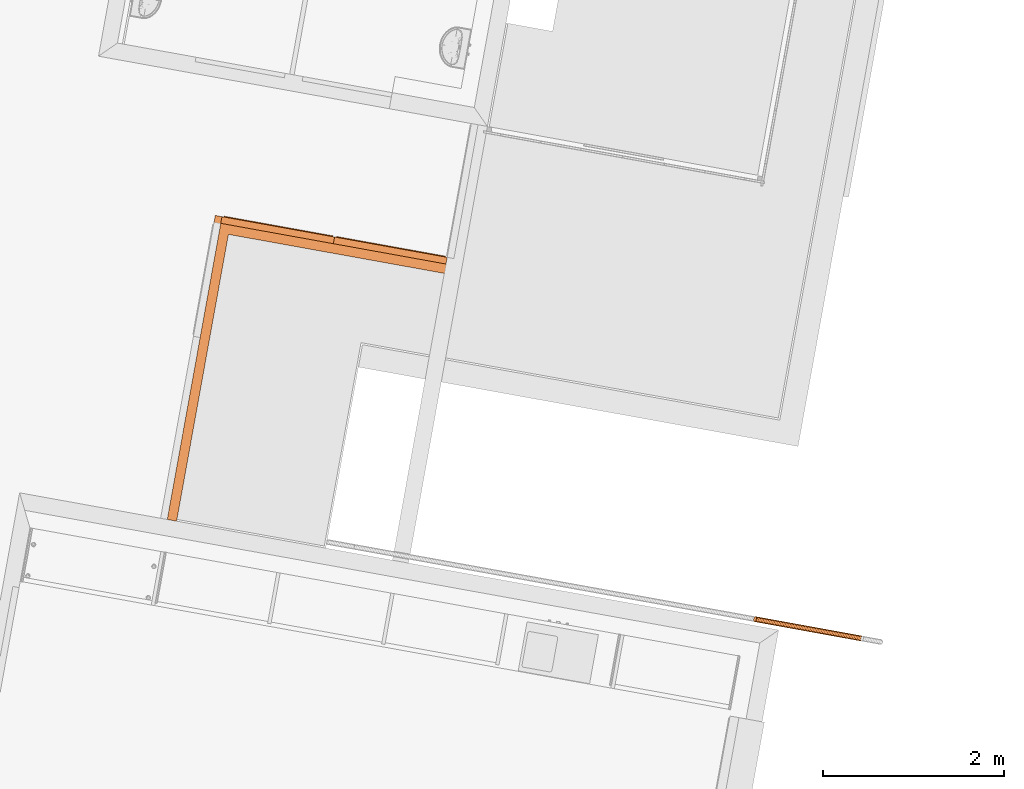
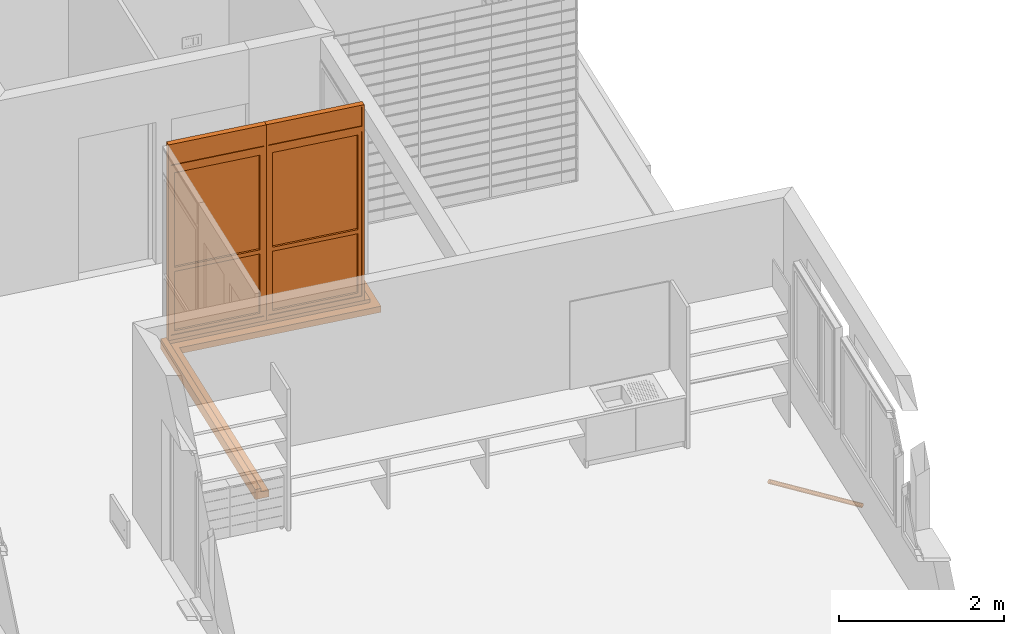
# One storey, part 41 of 52: 4 proxies, 1 element without a shape of its own.
"""IFC2X3 building model written with IfcOpenShell, lengths in metres."""

from ifc_helpers import new_model, entity, si_unit, converted_unit, derived_unit, money_unit, direction, frame, origin_with_axes, place, context, subcontext, project, spatial, open_shell, faceted_brep, surface_model, material, type_object, element, aggregate, save


model = new_model("IFC2X3")

# Units and contexts
model_context = context("Model", 3, precision=1e-05, world=origin_with_axes(), true_north=direction((0.0, 1.0)))
body_context = subcontext(model_context, "Body", "Model", "MODEL_VIEW")
ifc_project = project(units=[si_unit("LENGTHUNIT", "METRE"), si_unit("AREAUNIT", "SQUARE_METRE"), si_unit("VOLUMEUNIT", "CUBIC_METRE"), converted_unit("PLANEANGLEUNIT", "DEGREE", entity("IfcPlaneAngleMeasure", 0.0174532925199), si_unit("PLANEANGLEUNIT", "RADIAN"), dimensions=[0, 0, 0, 0, 0, 0, 0]), money_unit("CHF"), converted_unit("TIMEUNIT", "Year", entity("IfcTimeMeasure", 31556926.0), si_unit("TIMEUNIT", "SECOND"), dimensions=[0, 0, 1, 0, 0, 0, 0]), si_unit("MASSUNIT", "GRAM", prefix="KILO"), si_unit("THERMODYNAMICTEMPERATUREUNIT", "DEGREE_CELSIUS"), si_unit("LUMINOUSINTENSITYUNIT", "LUMEN"), si_unit("ENERGYUNIT", "JOULE", prefix="MEGA"), derived_unit("THERMALCONDUCTANCEUNIT", [(si_unit("POWERUNIT", "WATT"), 1), (si_unit("LENGTHUNIT", "METRE"), -1), (si_unit("THERMODYNAMICTEMPERATUREUNIT", "KELVIN"), -1)]), derived_unit("SPECIFICHEATCAPACITYUNIT", [(si_unit("ENERGYUNIT", "JOULE"), 1), (si_unit("MASSUNIT", "GRAM", prefix="KILO"), -1), (si_unit("THERMODYNAMICTEMPERATUREUNIT", "KELVIN"), -1)]), derived_unit("MASSDENSITYUNIT", [(si_unit("MASSUNIT", "GRAM", prefix="KILO"), 1), (si_unit("VOLUMEUNIT", "CUBIC_METRE"), -1)])], contexts=[model_context])

# Site, building, storey
site_placement = place(None, frame((0.0, 0.0, 0.0), z_axis=(0.0, 0.0, 1.0), x_axis=(-0.177771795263, -0.984071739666, 0.0)))
site = spatial("IfcSite", under=ifc_project, at=site_placement, Name="Site", CompositionType="ELEMENT")
building_placement = place(site_placement, origin_with_axes())
building = spatial("IfcBuilding", under=site, at=building_placement, Name="Bâtiment", CompositionType="ELEMENT")
storey_placement = place(building_placement, frame((0.0, 0.0, 3.2), z_axis=(0.0, 0.0, 1.0), x_axis=(1.0, 0.0, 0.0)))
storey = spatial("IfcBuildingStorey", under=building, at=storey_placement, Name="R+1", CompositionType="ELEMENT", Elevation=3.2)

# Proxies
ifc_material_1 = material(Name="_BA banché RAL9007")
building_element_proxy_type_1 = type_object("IfcBuildingElementProxyType", Name="_BA banché RAL9007 150", PredefinedType="NOTDEFINED")
proxy_1_placement = place(storey_placement, frame((141.294840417, -152.267150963, 0.0), z_axis=(0.0, 0.0, 1.0), x_axis=(1.0, 0.0, 0.0)))
element("IfcBuildingElementProxy", 1, at=proxy_1_placement, inside=storey, type_object=building_element_proxy_type_1, material=ifc_material_1, Name="Seuil-MR-terrasse", context=body_context, shape_type="Brep", body=[
    faceted_brep([(1.49999999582, -0.179999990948, -0.15), (1.50000012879, -2.78000014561, -0.15), (1.50000012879, -2.78000014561, 0.0), (1.49999999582, -0.179999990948, 0.0), (7.46330997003e-09, -0.180000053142, -0.15), (0.0, 0.0, -0.15), (1.67999998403, 6.96570598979e-08, -0.15), (1.68000011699, -2.5999995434, -0.15), (4.89500074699, -2.59999172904, -0.15), (4.8950007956, -2.77999189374, -0.15), (4.8950007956, -2.77999189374, 0.0), (7.46330997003e-09, -0.180000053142, 0.0), (4.89500093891, -2.70499971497, 0.0), (1.57500011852, -2.70499971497, 0.0), (1.57500011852, -0.10499993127, 0.0), (1.45964579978e-07, -0.104999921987, 0.0), (1.45964579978e-07, -0.104999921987, -0.05), (1.24680469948e-07, 7.80125599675e-08, -0.06), (1.68000011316, 3.01139002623e-09, -0.06), (1.68000024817, -2.59999971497, -0.06), (4.89500093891, -2.59999971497, -0.06), (4.89500093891, -2.70499971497, -0.05), (1.57500011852, -2.70499971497, -0.05), (1.57500011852, -0.10499993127, -0.05)], [[[0, 1, 2, 3]], [[0, 4, 5, 6, 7, 8, 9, 1]], [[1, 9, 10, 2]], [[11, 3, 2, 10, 12, 13, 14, 15]], [[4, 0, 3, 11]], [[4, 11, 15, 16, 17, 5]], [[5, 17, 18, 6]], [[7, 6, 18, 19]], [[7, 19, 20, 8]], [[10, 9, 8, 20, 21, 12]], [[13, 12, 21, 22]], [[13, 22, 23, 14]], [[16, 15, 14, 23]], [[17, 16, 23, 18]], [[22, 19, 18, 23]], [[22, 21, 20, 19]]]),
])
ifc_material_2 = material(Name="Matériau de construction IFC")
building_element_proxy_type_2 = type_object("IfcBuildingElementProxyType", Name="Fenêtre verticale à châssis multiples 21", PredefinedType="NOTDEFINED")
proxy_2_placement = place(storey_placement, frame((142.869840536, -154.972150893, 0.0), z_axis=(0.0, 0.0, 1.0), x_axis=(-5.1141138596e-08, 1.0, 0.0)))
element("IfcBuildingElementProxy", 2, at=proxy_2_placement, inside=storey, type_object=building_element_proxy_type_2, material=ifc_material_2, Name="Baie terrasse_ATTENTE", context=body_context, shape_type="SurfaceModel", body=[
    faceted_brep([(1.24250000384, 0.0749999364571, 0.07), (1.24250000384, 0.0749999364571, 2.5225), (1.23250000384, 0.0749999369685, 2.5225), (1.23250000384, 0.0749999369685, 2.5775), (1.24250000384, 0.0749999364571, 2.5775), (1.24250000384, 0.0749999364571, 2.87), (1.26250000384, 0.0749999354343, 2.87), (1.26250000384, 0.0749999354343, 0.07), (1.24250000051, 0.00999993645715, 0.07), (1.24250000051, 0.00999993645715, 2.5225), (1.23250000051, 0.00999993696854, 2.5225), (1.23250000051, 0.00999993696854, 2.5125), (1.2325, -6.303145e-08, 2.5125), (1.2325, -6.303145e-08, 2.5875), (1.23250000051, 0.00999993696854, 2.5875), (1.23250000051, 0.00999993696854, 2.5775), (1.24250000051, 0.00999993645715, 2.5775), (1.24250000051, 0.00999993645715, 2.87), (1.23250000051, 0.00999993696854, 2.87), (1.2325, -6.303145e-08, 2.87), (1.2625, -6.456568e-08, 2.87), (1.2625, -6.456568e-08, 0.07), (1.2325, -6.303145e-08, 0.07), (1.23250000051, 0.00999993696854, 0.07)], [[[0, 1, 2, 3, 4, 5, 6, 7]], [[1, 0, 8, 9]], [[10, 2, 1, 9]], [[10, 11, 12, 13, 14, 15, 3, 2]], [[4, 3, 15, 16]], [[17, 5, 4, 16]], [[5, 17, 18, 19, 20, 6]], [[6, 20, 21, 7]], [[8, 0, 7, 21, 22, 23]], [[11, 10, 9, 8, 23]], [[11, 23, 22, 12]], [[20, 19, 13, 12, 22, 21]], [[18, 14, 13, 19]], [[14, 18, 17, 16, 15]]]),
    faceted_brep([(0.0200000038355, 0.0749999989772, 2.5225), (0.0200000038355, 0.0749999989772, 0.07), (3.83557e-09, 0.075, 0.07), (3.83557e-09, 0.075, 2.87), (0.0200000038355, 0.0749999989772, 2.87), (0.0200000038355, 0.0749999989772, 2.5775), (0.0300000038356, 0.0749999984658, 2.5775), (0.0300000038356, 0.0749999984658, 2.5225), (0.0200000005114, 0.00999999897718, 2.5225), (0.0200000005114, 0.00999999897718, 0.07), (0.0300000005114, 0.00999999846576, 0.07), (0.03, -1.53423e-09, 0.07), (0.0, 0.0, 0.07), (0.0, 0.0, 2.87), (0.0300000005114, 0.00999999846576, 2.87), (0.0200000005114, 0.00999999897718, 2.87), (0.03, -1.53423e-09, 2.87), (0.0200000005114, 0.00999999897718, 2.5775), (0.0300000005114, 0.00999999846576, 2.5775), (0.0300000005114, 0.00999999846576, 2.5225), (0.0300000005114, 0.00999999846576, 2.5875), (0.03, -1.53423e-09, 2.5875), (0.03, -1.53423e-09, 2.5125), (0.0300000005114, 0.00999999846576, 2.5125)], [[[0, 1, 2, 3, 4, 5, 6, 7]], [[1, 0, 8, 9]], [[9, 10, 11, 12, 2, 1]], [[2, 12, 13, 3]], [[14, 15, 4, 3, 13, 16]], [[5, 4, 15, 17]], [[6, 5, 17, 18]], [[19, 7, 6, 18, 20, 21, 22, 23]], [[0, 7, 19, 8]], [[10, 9, 8, 19, 23]], [[10, 23, 22, 11]], [[22, 21, 16, 13, 12, 11]], [[15, 14, 20, 18, 17]], [[20, 14, 16, 21]]]),
    faceted_brep([(1.24250000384, 0.0749999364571, 2.87), (1.24250000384, 0.0749999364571, 2.88), (0.0200000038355, 0.0749999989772, 2.88), (0.0200000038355, 0.0749999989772, 2.87), (3.83557e-09, 0.075, 2.87), (3.83557e-09, 0.075, 2.9), (1.26250000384, 0.0749999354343, 2.9), (1.26250000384, 0.0749999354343, 2.87), (1.24250000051, 0.00999993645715, 2.87), (1.24250000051, 0.00999993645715, 2.88), (0.0200000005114, 0.00999999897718, 2.88), (0.0200000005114, 0.00999999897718, 2.87), (0.0300000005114, 0.00999999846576, 2.87), (0.03, -1.53423e-09, 2.87), (0.0, 0.0, 2.87), (0.0, 0.0, 2.9), (1.2625, -6.456568e-08, 2.9), (1.2625, -6.456568e-08, 2.87), (1.2325, -6.303145e-08, 2.87), (1.23250000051, 0.00999993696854, 2.87)], [[[0, 1, 2, 3, 4, 5, 6, 7]], [[1, 0, 8, 9]], [[2, 1, 9, 10]], [[3, 2, 10, 11]], [[11, 12, 13, 14, 4, 3]], [[4, 14, 15, 5]], [[5, 15, 16, 6]], [[6, 16, 17, 7]], [[8, 0, 7, 17, 18, 19]], [[12, 11, 10, 9, 8, 19]], [[12, 19, 18, 13]], [[14, 13, 18, 17, 16, 15]]]),
    faceted_brep([(0.0300000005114, 0.00999999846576, 0.07), (0.0200000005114, 0.00999999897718, 0.07), (0.0200000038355, 0.0749999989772, 0.07), (3.83557e-09, 0.075, 0.07), (0.0, 0.0, 0.07), (0.03, -1.53423e-09, 0.07), (1.23250000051, 0.00999993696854, 0.07), (1.24250000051, 0.00999993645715, 0.07), (1.24250000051, 0.00999993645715, 0.06), (0.0200000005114, 0.00999999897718, 0.06), (0.0200000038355, 0.0749999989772, 0.06), (1.24250000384, 0.0749999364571, 0.06), (1.24250000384, 0.0749999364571, 0.07), (1.26250000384, 0.0749999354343, 0.07), (1.26250000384, 0.0749999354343, 0.0), (3.83557e-09, 0.075, 0.0), (0.0, 0.0, 0.0), (1.2625, -6.456568e-08, 0.07), (1.2325, -6.303145e-08, 0.07), (1.2625, -6.456568e-08, 0.0)], [[[0, 1, 2, 3, 4, 5]], [[1, 0, 6, 7, 8, 9]], [[10, 2, 1, 9]], [[11, 12, 13, 14, 15, 3, 2, 10]], [[15, 16, 4, 3]], [[17, 18, 5, 4, 16, 19]], [[6, 0, 5, 18]], [[7, 6, 18, 17, 13, 12]], [[7, 12, 11, 8]], [[11, 10, 9, 8]], [[13, 17, 19, 14]], [[14, 19, 16, 15]]]),
    faceted_brep([(1.23250000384, 0.0749999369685, 2.5225), (0.0300000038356, 0.0749999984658, 2.5225), (0.0300000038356, 0.0749999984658, 2.5775), (1.23250000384, 0.0749999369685, 2.5775), (0.0300000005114, 0.00999999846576, 2.5225), (1.23250000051, 0.00999993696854, 2.5225), (0.0300000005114, 0.00999999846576, 2.5125), (0.03, -1.53423e-09, 2.5125), (0.03, -1.53423e-09, 2.5875), (0.0300000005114, 0.00999999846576, 2.5875), (0.0300000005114, 0.00999999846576, 2.5775), (1.23250000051, 0.00999993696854, 2.5775), (1.23250000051, 0.00999993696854, 2.5875), (1.2325, -6.303145e-08, 2.5875), (1.2325, -6.303145e-08, 2.5125), (1.23250000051, 0.00999993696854, 2.5125)], [[[0, 1, 2, 3]], [[4, 1, 0, 5]], [[4, 6, 7, 8, 9, 10, 2, 1]], [[3, 2, 10, 11]], [[5, 0, 3, 11, 12, 13, 14, 15]], [[6, 4, 5, 15]], [[6, 15, 14, 7]], [[13, 8, 7, 14]], [[12, 9, 8, 13]], [[10, 9, 12, 11]]]),
    faceted_brep([(1.18250000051, 0.00999993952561, 1.0), (1.18250000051, 0.00999993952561, 1.06), (1.18250000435, 0.0849999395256, 1.06), (1.18250000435, 0.0849999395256, 1.0), (1.18250000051, 0.00999993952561, 0.12), (1.24250000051, 0.00999993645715, 0.12), (1.24250000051, 0.00999993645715, 2.4625), (1.18250000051, 0.00999993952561, 2.4625), (1.18250000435, 0.0849999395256, 2.4625), (1.24250000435, 0.0849999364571, 2.4625), (1.24250000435, 0.0849999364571, 0.12), (1.18250000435, 0.0849999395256, 0.12)], [[[0, 1, 2, 3]], [[0, 4, 5, 6, 7, 1]], [[1, 7, 8, 2]], [[3, 2, 8, 9, 10, 11]], [[4, 0, 3, 11]], [[5, 4, 11, 10]], [[6, 5, 10, 9]], [[7, 6, 9, 8]]]),
    faceted_brep([(0.0800000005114, 0.00999999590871, 0.12), (0.0200000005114, 0.00999999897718, 0.12), (0.020000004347, 0.0849999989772, 0.12), (0.080000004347, 0.0849999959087, 0.12), (0.0800000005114, 0.00999999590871, 1.0), (0.0800000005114, 0.00999999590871, 1.06), (0.0800000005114, 0.00999999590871, 2.4625), (0.0200000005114, 0.00999999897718, 2.4625), (0.020000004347, 0.0849999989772, 2.4625), (0.080000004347, 0.0849999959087, 2.4625), (0.080000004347, 0.0849999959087, 1.06), (0.080000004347, 0.0849999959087, 1.0)], [[[0, 1, 2, 3]], [[0, 4, 5, 6, 7, 1]], [[1, 7, 8, 2]], [[3, 2, 8, 9, 10, 11]], [[4, 0, 3, 11]], [[5, 4, 11, 10]], [[6, 5, 10, 9]], [[7, 6, 9, 8]]]),
    faceted_brep([(0.0200000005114, 0.00999999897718, 0.06), (0.0200000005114, 0.00999999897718, 0.12), (0.020000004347, 0.0849999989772, 0.12), (0.020000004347, 0.0849999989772, 0.06), (1.24250000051, 0.00999993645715, 0.06), (1.24250000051, 0.00999993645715, 0.12), (1.18250000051, 0.00999993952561, 0.12), (0.0800000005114, 0.00999999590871, 0.12), (0.080000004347, 0.0849999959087, 0.12), (1.18250000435, 0.0849999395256, 0.12), (1.24250000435, 0.0849999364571, 0.12), (1.24250000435, 0.0849999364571, 0.06)], [[[0, 1, 2, 3]], [[0, 4, 5, 6, 7, 1]], [[1, 7, 8, 2]], [[3, 2, 8, 9, 10, 11]], [[4, 0, 3, 11]], [[5, 4, 11, 10]], [[6, 5, 10, 9]], [[7, 6, 9, 8]]]),
    faceted_brep([(1.24250000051, 0.00999993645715, 2.5225), (1.24250000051, 0.00999993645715, 2.4625), (1.24250000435, 0.0849999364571, 2.4625), (1.24250000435, 0.0849999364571, 2.5225), (0.0200000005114, 0.00999999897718, 2.5225), (0.0200000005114, 0.00999999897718, 2.4625), (0.0800000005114, 0.00999999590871, 2.4625), (1.18250000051, 0.00999993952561, 2.4625), (1.18250000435, 0.0849999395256, 2.4625), (0.080000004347, 0.0849999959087, 2.4625), (0.020000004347, 0.0849999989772, 2.4625), (0.020000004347, 0.0849999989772, 2.5225)], [[[0, 1, 2, 3]], [[0, 4, 5, 6, 7, 1]], [[1, 7, 8, 2]], [[3, 2, 8, 9, 10, 11]], [[4, 0, 3, 11]], [[5, 4, 11, 10]], [[6, 5, 10, 9]], [[7, 6, 9, 8]]]),
    faceted_brep([(0.0800000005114, 0.00999999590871, 1.0), (0.0800000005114, 0.00999999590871, 1.06), (0.080000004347, 0.0849999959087, 1.06), (0.080000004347, 0.0849999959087, 1.0), (1.18250000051, 0.00999993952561, 1.0), (1.18250000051, 0.00999993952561, 1.06), (1.18250000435, 0.0849999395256, 1.06), (1.18250000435, 0.0849999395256, 1.0)], [[[0, 1, 2, 3]], [[0, 4, 5, 1]], [[1, 5, 6, 2]], [[3, 2, 6, 7]], [[4, 0, 3, 7]], [[5, 4, 7, 6]]]),
    surface_model("IfcShellBasedSurfaceModel", [(1.18250000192, 0.0374999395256, 1.06), (1.18250000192, 0.0374999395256, 2.4625), (0.0800000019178, 0.0374999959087, 2.4625), (0.0800000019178, 0.0374999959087, 1.06)], [open_shell([[[0, 1, 2, 3]]])]),
    surface_model("IfcShellBasedSurfaceModel", [(1.18250000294, 0.0574999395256, 1.06), (0.0800000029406, 0.0574999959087, 1.06), (0.0800000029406, 0.0574999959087, 2.4625), (1.18250000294, 0.0574999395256, 2.4625)], [open_shell([[[0, 1, 2, 3]]])]),
    surface_model("IfcShellBasedSurfaceModel", [(1.18250000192, 0.0374999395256, 0.12), (1.18250000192, 0.0374999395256, 1.0), (0.0800000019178, 0.0374999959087, 1.0), (0.0800000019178, 0.0374999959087, 0.12)], [open_shell([[[0, 1, 2, 3]]])]),
    surface_model("IfcShellBasedSurfaceModel", [(1.18250000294, 0.0574999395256, 0.12), (0.0800000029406, 0.0574999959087, 0.12), (0.0800000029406, 0.0574999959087, 1.0), (1.18250000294, 0.0574999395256, 1.0)], [open_shell([[[0, 1, 2, 3]]])]),
    faceted_brep([(1.24250000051, 0.00999993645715, 2.5775), (0.0200000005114, 0.00999999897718, 2.5775), (0.020000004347, 0.0849999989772, 2.5775), (1.24250000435, 0.0849999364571, 2.5775), (1.24250000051, 0.00999993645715, 2.88), (0.0200000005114, 0.00999999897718, 2.88), (0.020000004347, 0.0849999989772, 2.88), (1.24250000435, 0.0849999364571, 2.88)], [[[0, 1, 2, 3]], [[0, 4, 5, 1]], [[1, 5, 6, 2]], [[3, 2, 6, 7]], [[4, 0, 3, 7]], [[5, 4, 7, 6]]]),
])
proxy_3_placement = place(storey_placement, frame((142.869840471, -153.709650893, 0.0), z_axis=(0.0, 0.0, 1.0), x_axis=(-5.1141138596e-08, 1.0, 0.0)))
element("IfcBuildingElementProxy", 3, at=proxy_3_placement, inside=storey, type_object=building_element_proxy_type_2, material=ifc_material_2, Name="Baie terrasse_ATTENTE", context=body_context, shape_type="SurfaceModel", body=[
    faceted_brep([(1.24250000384, 0.0749998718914, 0.07), (1.24250000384, 0.0749998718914, 2.5225), (1.23250000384, 0.0749998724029, 2.5225), (1.23250000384, 0.0749998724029, 2.5775), (1.24250000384, 0.0749998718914, 2.5775), (1.24250000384, 0.0749998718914, 2.87), (1.26250000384, 0.0749998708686, 2.87), (1.26250000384, 0.0749998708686, 0.07), (1.24250000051, 0.00999987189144, 0.07), (1.24250000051, 0.00999987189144, 2.5225), (1.23250000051, 0.00999987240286, 2.5225), (1.23250000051, 0.00999987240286, 2.5125), (1.2325, -1.2759713e-07, 2.5125), (1.2325, -1.2759713e-07, 2.5875), (1.23250000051, 0.00999987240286, 2.5875), (1.23250000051, 0.00999987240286, 2.5775), (1.24250000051, 0.00999987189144, 2.5775), (1.24250000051, 0.00999987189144, 2.87), (1.23250000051, 0.00999987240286, 2.87), (1.2325, -1.2759713e-07, 2.87), (1.2625, -1.2913137e-07, 2.87), (1.2625, -1.2913137e-07, 0.07), (1.2325, -1.2759713e-07, 0.07), (1.23250000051, 0.00999987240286, 0.07)], [[[0, 1, 2, 3, 4, 5, 6, 7]], [[1, 0, 8, 9]], [[10, 2, 1, 9]], [[10, 11, 12, 13, 14, 15, 3, 2]], [[4, 3, 15, 16]], [[17, 5, 4, 16]], [[5, 17, 18, 19, 20, 6]], [[6, 20, 21, 7]], [[8, 0, 7, 21, 22, 23]], [[11, 10, 9, 8, 23]], [[11, 23, 22, 12]], [[20, 19, 13, 12, 22, 21]], [[18, 14, 13, 19]], [[14, 18, 17, 16, 15]]]),
    faceted_brep([(0.0200000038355, 0.0749999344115, 2.5225), (0.0200000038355, 0.0749999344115, 0.07), (3.83557e-09, 0.0749999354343, 0.07), (3.83557e-09, 0.0749999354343, 2.87), (0.0200000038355, 0.0749999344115, 2.87), (0.0200000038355, 0.0749999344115, 2.5775), (0.0300000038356, 0.0749999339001, 2.5775), (0.0300000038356, 0.0749999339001, 2.5225), (0.0200000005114, 0.0099999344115, 2.5225), (0.0200000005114, 0.0099999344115, 0.07), (0.0300000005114, 0.00999993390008, 0.07), (0.03, -6.609991e-08, 0.07), (0.0, -6.456568e-08, 0.07), (0.0, -6.456568e-08, 2.87), (0.0300000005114, 0.00999993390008, 2.87), (0.0200000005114, 0.0099999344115, 2.87), (0.03, -6.609991e-08, 2.87), (0.0200000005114, 0.0099999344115, 2.5775), (0.0300000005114, 0.00999993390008, 2.5775), (0.0300000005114, 0.00999993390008, 2.5225), (0.0300000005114, 0.00999993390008, 2.5875), (0.03, -6.609991e-08, 2.5875), (0.03, -6.609991e-08, 2.5125), (0.0300000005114, 0.00999993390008, 2.5125)], [[[0, 1, 2, 3, 4, 5, 6, 7]], [[1, 0, 8, 9]], [[9, 10, 11, 12, 2, 1]], [[2, 12, 13, 3]], [[14, 15, 4, 3, 13, 16]], [[5, 4, 15, 17]], [[6, 5, 17, 18]], [[19, 7, 6, 18, 20, 21, 22, 23]], [[0, 7, 19, 8]], [[10, 9, 8, 19, 23]], [[10, 23, 22, 11]], [[22, 21, 16, 13, 12, 11]], [[15, 14, 20, 18, 17]], [[20, 14, 16, 21]]]),
    faceted_brep([(1.24250000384, 0.0749998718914, 2.87), (1.24250000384, 0.0749998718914, 2.88), (0.0200000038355, 0.0749999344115, 2.88), (0.0200000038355, 0.0749999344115, 2.87), (3.83557e-09, 0.0749999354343, 2.87), (3.83557e-09, 0.0749999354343, 2.9), (1.26250000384, 0.0749998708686, 2.9), (1.26250000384, 0.0749998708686, 2.87), (1.24250000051, 0.00999987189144, 2.87), (1.24250000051, 0.00999987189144, 2.88), (0.0200000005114, 0.0099999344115, 2.88), (0.0200000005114, 0.0099999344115, 2.87), (0.0300000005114, 0.00999993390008, 2.87), (0.03, -6.609991e-08, 2.87), (0.0, -6.456568e-08, 2.87), (0.0, -6.456568e-08, 2.9), (1.2625, -1.2913137e-07, 2.9), (1.2625, -1.2913137e-07, 2.87), (1.2325, -1.2759713e-07, 2.87), (1.23250000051, 0.00999987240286, 2.87)], [[[0, 1, 2, 3, 4, 5, 6, 7]], [[1, 0, 8, 9]], [[2, 1, 9, 10]], [[3, 2, 10, 11]], [[11, 12, 13, 14, 4, 3]], [[4, 14, 15, 5]], [[5, 15, 16, 6]], [[6, 16, 17, 7]], [[8, 0, 7, 17, 18, 19]], [[12, 11, 10, 9, 8, 19]], [[12, 19, 18, 13]], [[14, 13, 18, 17, 16, 15]]]),
    faceted_brep([(0.0300000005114, 0.00999993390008, 0.07), (0.0200000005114, 0.0099999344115, 0.07), (0.0200000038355, 0.0749999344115, 0.07), (3.83557e-09, 0.0749999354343, 0.07), (0.0, -6.456568e-08, 0.07), (0.03, -6.609991e-08, 0.07), (1.23250000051, 0.00999987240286, 0.07), (1.24250000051, 0.00999987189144, 0.07), (1.24250000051, 0.00999987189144, 0.06), (0.0200000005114, 0.0099999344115, 0.06), (0.0200000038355, 0.0749999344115, 0.06), (1.24250000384, 0.0749998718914, 0.06), (1.24250000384, 0.0749998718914, 0.07), (1.26250000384, 0.0749998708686, 0.07), (1.26250000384, 0.0749998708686, 0.0), (3.83557e-09, 0.0749999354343, 0.0), (0.0, -6.456568e-08, 0.0), (1.2625, -1.2913137e-07, 0.07), (1.2325, -1.2759713e-07, 0.07), (1.2625, -1.2913137e-07, 0.0)], [[[0, 1, 2, 3, 4, 5]], [[1, 0, 6, 7, 8, 9]], [[10, 2, 1, 9]], [[11, 12, 13, 14, 15, 3, 2, 10]], [[15, 16, 4, 3]], [[17, 18, 5, 4, 16, 19]], [[6, 0, 5, 18]], [[7, 6, 18, 17, 13, 12]], [[7, 12, 11, 8]], [[11, 10, 9, 8]], [[13, 17, 19, 14]], [[14, 19, 16, 15]]]),
    faceted_brep([(1.23250000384, 0.0749998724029, 2.5225), (0.0300000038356, 0.0749999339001, 2.5225), (0.0300000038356, 0.0749999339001, 2.5775), (1.23250000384, 0.0749998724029, 2.5775), (0.0300000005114, 0.00999993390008, 2.5225), (1.23250000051, 0.00999987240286, 2.5225), (0.0300000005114, 0.00999993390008, 2.5125), (0.03, -6.609991e-08, 2.5125), (0.03, -6.609991e-08, 2.5875), (0.0300000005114, 0.00999993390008, 2.5875), (0.0300000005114, 0.00999993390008, 2.5775), (1.23250000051, 0.00999987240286, 2.5775), (1.23250000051, 0.00999987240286, 2.5875), (1.2325, -1.2759713e-07, 2.5875), (1.2325, -1.2759713e-07, 2.5125), (1.23250000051, 0.00999987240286, 2.5125)], [[[0, 1, 2, 3]], [[4, 1, 0, 5]], [[4, 6, 7, 8, 9, 10, 2, 1]], [[3, 2, 10, 11]], [[5, 0, 3, 11, 12, 13, 14, 15]], [[6, 4, 5, 15]], [[6, 15, 14, 7]], [[13, 8, 7, 14]], [[12, 9, 8, 13]], [[10, 9, 12, 11]]]),
    faceted_brep([(1.18250000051, 0.00999987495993, 1.0), (1.18250000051, 0.00999987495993, 1.06), (1.18250000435, 0.0849998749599, 1.06), (1.18250000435, 0.0849998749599, 1.0), (1.18250000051, 0.00999987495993, 0.12), (1.24250000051, 0.00999987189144, 0.12), (1.24250000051, 0.00999987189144, 2.4625), (1.18250000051, 0.00999987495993, 2.4625), (1.18250000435, 0.0849998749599, 2.4625), (1.24250000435, 0.0849998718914, 2.4625), (1.24250000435, 0.0849998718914, 0.12), (1.18250000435, 0.0849998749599, 0.12)], [[[0, 1, 2, 3]], [[0, 4, 5, 6, 7, 1]], [[1, 7, 8, 2]], [[3, 2, 8, 9, 10, 11]], [[4, 0, 3, 11]], [[5, 4, 11, 10]], [[6, 5, 10, 9]], [[7, 6, 9, 8]]]),
    faceted_brep([(0.0800000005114, 0.00999993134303, 0.12), (0.0200000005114, 0.0099999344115, 0.12), (0.020000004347, 0.0849999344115, 0.12), (0.080000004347, 0.084999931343, 0.12), (0.0800000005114, 0.00999993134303, 1.0), (0.0800000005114, 0.00999993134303, 1.06), (0.0800000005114, 0.00999993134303, 2.4625), (0.0200000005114, 0.0099999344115, 2.4625), (0.020000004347, 0.0849999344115, 2.4625), (0.080000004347, 0.084999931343, 2.4625), (0.080000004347, 0.084999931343, 1.06), (0.080000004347, 0.084999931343, 1.0)], [[[0, 1, 2, 3]], [[0, 4, 5, 6, 7, 1]], [[1, 7, 8, 2]], [[3, 2, 8, 9, 10, 11]], [[4, 0, 3, 11]], [[5, 4, 11, 10]], [[6, 5, 10, 9]], [[7, 6, 9, 8]]]),
    faceted_brep([(0.0200000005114, 0.0099999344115, 0.06), (0.0200000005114, 0.0099999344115, 0.12), (0.020000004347, 0.0849999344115, 0.12), (0.020000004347, 0.0849999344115, 0.06), (1.24250000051, 0.00999987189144, 0.06), (1.24250000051, 0.00999987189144, 0.12), (1.18250000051, 0.00999987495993, 0.12), (0.0800000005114, 0.00999993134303, 0.12), (0.080000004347, 0.084999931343, 0.12), (1.18250000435, 0.0849998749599, 0.12), (1.24250000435, 0.0849998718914, 0.12), (1.24250000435, 0.0849998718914, 0.06)], [[[0, 1, 2, 3]], [[0, 4, 5, 6, 7, 1]], [[1, 7, 8, 2]], [[3, 2, 8, 9, 10, 11]], [[4, 0, 3, 11]], [[5, 4, 11, 10]], [[6, 5, 10, 9]], [[7, 6, 9, 8]]]),
    faceted_brep([(1.24250000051, 0.00999987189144, 2.5225), (1.24250000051, 0.00999987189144, 2.4625), (1.24250000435, 0.0849998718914, 2.4625), (1.24250000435, 0.0849998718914, 2.5225), (0.0200000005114, 0.0099999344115, 2.5225), (0.0200000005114, 0.0099999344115, 2.4625), (0.0800000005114, 0.00999993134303, 2.4625), (1.18250000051, 0.00999987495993, 2.4625), (1.18250000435, 0.0849998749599, 2.4625), (0.080000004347, 0.084999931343, 2.4625), (0.020000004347, 0.0849999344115, 2.4625), (0.020000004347, 0.0849999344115, 2.5225)], [[[0, 1, 2, 3]], [[0, 4, 5, 6, 7, 1]], [[1, 7, 8, 2]], [[3, 2, 8, 9, 10, 11]], [[4, 0, 3, 11]], [[5, 4, 11, 10]], [[6, 5, 10, 9]], [[7, 6, 9, 8]]]),
    faceted_brep([(0.0800000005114, 0.00999993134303, 1.0), (0.0800000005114, 0.00999993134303, 1.06), (0.080000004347, 0.084999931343, 1.06), (0.080000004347, 0.084999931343, 1.0), (1.18250000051, 0.00999987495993, 1.0), (1.18250000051, 0.00999987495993, 1.06), (1.18250000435, 0.0849998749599, 1.06), (1.18250000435, 0.0849998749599, 1.0)], [[[0, 1, 2, 3]], [[0, 4, 5, 1]], [[1, 5, 6, 2]], [[3, 2, 6, 7]], [[4, 0, 3, 7]], [[5, 4, 7, 6]]]),
    surface_model("IfcShellBasedSurfaceModel", [(1.18250000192, 0.0374998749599, 1.06), (1.18250000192, 0.0374998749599, 2.4625), (0.0800000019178, 0.037499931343, 2.4625), (0.0800000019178, 0.037499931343, 1.06)], [open_shell([[[0, 1, 2, 3]]])]),
    surface_model("IfcShellBasedSurfaceModel", [(1.18250000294, 0.0574998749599, 1.06), (0.0800000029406, 0.057499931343, 1.06), (0.0800000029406, 0.057499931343, 2.4625), (1.18250000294, 0.0574998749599, 2.4625)], [open_shell([[[0, 1, 2, 3]]])]),
    surface_model("IfcShellBasedSurfaceModel", [(1.18250000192, 0.0374998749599, 0.12), (1.18250000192, 0.0374998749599, 1.0), (0.0800000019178, 0.037499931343, 1.0), (0.0800000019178, 0.037499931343, 0.12)], [open_shell([[[0, 1, 2, 3]]])]),
    surface_model("IfcShellBasedSurfaceModel", [(1.18250000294, 0.0574998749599, 0.12), (0.0800000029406, 0.057499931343, 0.12), (0.0800000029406, 0.057499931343, 1.0), (1.18250000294, 0.0574998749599, 1.0)], [open_shell([[[0, 1, 2, 3]]])]),
    faceted_brep([(1.24250000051, 0.00999987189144, 2.5775), (0.0200000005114, 0.0099999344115, 2.5775), (0.020000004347, 0.0849999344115, 2.5775), (1.24250000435, 0.0849998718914, 2.5775), (1.24250000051, 0.00999987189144, 2.88), (0.0200000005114, 0.0099999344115, 2.88), (0.020000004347, 0.0849999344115, 2.88), (1.24250000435, 0.0849998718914, 2.88)], [[[0, 1, 2, 3]], [[0, 4, 5, 1]], [[1, 5, 6, 2]], [[3, 2, 6, 7]], [[4, 0, 3, 7]], [[5, 4, 7, 6]]]),
])

building_element_proxy_type_3 = type_object("IfcBuildingElementProxyType", Name="Type de garde-corps", PredefinedType="NOTDEFINED")
proxy_4_placement = place(storey_placement, frame((0.0, 0.0, -3.2), z_axis=(0.0, 0.0, 1.0), x_axis=(1.0, 0.0, 0.0)))
proxy_4 = element("IfcBuildingElementProxy", 4, at=proxy_4_placement, inside=storey, type_object=building_element_proxy_type_3, Name="garde-corps esc")
ifc_material_3 = material(Name="Bois - Massif 01")
building_element_proxy_type_4 = type_object("IfcBuildingElementProxyType", Name="IfcBuildingElementProxy", PredefinedType="NOTDEFINED")
proxy_5_placement = place(proxy_4_placement, frame((146.119596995, -147.795346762, 1.01757359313), z_axis=(0.0, 0.0, 1.0), x_axis=(1.0, 0.0, 0.0)))
proxy_5 = element("IfcBuildingElementProxy", 5, at=proxy_5_placement, type_object=building_element_proxy_type_4, material=ifc_material_3, Name="MOBILIER-001", context=body_context, shape_type="Brep", body=[
    faceted_brep([(-0.0294999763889, 0.60004083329, 0.0424264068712), (-0.029046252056, 0.597588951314, 0.0378298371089), (-0.0300449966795, -0.602458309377, 0.677846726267), (-0.0290421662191, 0.602491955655, 0.0470229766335), (-0.0276867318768, 0.604867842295, 0.0514798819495), (-0.0254748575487, 0.607096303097, 0.0556617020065), (-0.0224737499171, 0.609109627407, 0.0594413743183), (-0.0187745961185, 0.610846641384, 0.0627040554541), (-0.0144897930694, 0.612254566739, 0.0653506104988), (-0.0097495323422, 0.613290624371, 0.0673006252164), (-0.00469784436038, 0.613923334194, 0.0684948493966), (0.00051177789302, 0.61413347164, 0.0688969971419), (0.00572104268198, 0.613914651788, 0.0684948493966), (0.0107716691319, 0.61327352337, 0.0673006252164), (0.0155101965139, 0.612229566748, 0.0653506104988), (0.0197926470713, 0.610814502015, 0.0627040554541), (0.0234889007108, 0.609071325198, 0.0594413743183), (0.0264866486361, 0.607053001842, 0.0556617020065), (0.0286948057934, 0.60482085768, 0.0514798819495), (0.0300462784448, 0.602442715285, 0.0470229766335), (0.0305000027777, 0.599990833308, 0.0424264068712), (0.0300421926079, 0.597539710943, 0.0378298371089), (0.0286867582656, 0.595163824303, 0.0333729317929), (0.0264748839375, 0.592935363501, 0.0291911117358), (0.0234737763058, 0.590922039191, 0.0254114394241), (0.0197746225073, 0.589185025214, 0.0221487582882), (0.0154898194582, 0.587777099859, 0.0195022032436), (0.010749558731, 0.586741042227, 0.017552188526), (0.00569787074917, 0.586108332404, 0.0163579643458), (0.00048824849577, 0.585898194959, 0.0159558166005), (-0.00472101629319, 0.58611701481, 0.0163579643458), (-0.00977164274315, 0.586758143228, 0.017552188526), (-0.0145101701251, 0.587802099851, 0.0195022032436), (-0.0187926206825, 0.589217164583, 0.0221487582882), (-0.0224888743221, 0.5909603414, 0.0254114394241), (-0.0254866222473, 0.592978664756, 0.0291911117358), (-0.0276947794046, 0.595210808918, 0.0333729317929), (-0.0286922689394, -0.604835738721, 0.673389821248), (-0.0305000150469, -0.600006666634, 0.682443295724), (-0.0300434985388, -0.597555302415, 0.68703986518), (-0.0286893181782, -0.595178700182, 0.691496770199), (-0.0264786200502, -0.592949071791, 0.695678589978), (-0.0234785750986, -0.590934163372, 0.699458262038), (-0.0197803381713, -0.589195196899, 0.702720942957), (-0.0154962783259, -0.587785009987, 0.705367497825), (-0.010756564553, -0.586746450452, 0.707317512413), (-0.00570521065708, -0.586111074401, 0.708511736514), (-0.00049569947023, -0.585898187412, 0.708913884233), (0.00471368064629, -0.58611425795, 0.708511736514), (0.00976464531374, -0.586752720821, 0.707317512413), (0.0145037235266, -0.587794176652, 0.705367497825), (0.0187869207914, -0.589206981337, 0.702720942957), (0.0224840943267, -0.590948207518, 0.699458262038), (0.0254829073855, -0.592964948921, 0.695678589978), (0.0276922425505, -0.595195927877, 0.691496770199), (0.0290449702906, -0.597573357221, 0.68703986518), (0.0294999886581, -0.600024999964, 0.682443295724), (0.0290434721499, -0.602476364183, 0.677846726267), (0.0276892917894, -0.604852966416, 0.673389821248), (0.0254785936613, -0.607082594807, 0.669208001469), (0.0224785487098, -0.609097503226, 0.665428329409), (0.0187803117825, -0.610836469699, 0.66216564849), (0.0144962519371, -0.612246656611, 0.659519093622), (0.00975653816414, -0.613285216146, 0.657569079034), (0.00470518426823, -0.613920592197, 0.656374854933), (-0.00050432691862, -0.614133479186, 0.655972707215), (-0.00571370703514, -0.613917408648, 0.656374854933), (-0.0107646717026, -0.613278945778, 0.657569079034), (-0.0155037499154, -0.612237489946, 0.659519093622), (-0.0197869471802, -0.610824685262, 0.66216564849), (-0.0234841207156, -0.60908345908, 0.665428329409), (-0.0264829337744, -0.607066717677, 0.669208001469)], [[[0, 1, 2]], [[0, 3, 4, 5, 6, 7, 8, 9, 10, 11, 12, 13, 14, 15, 16, 17, 18, 19, 20, 21, 22, 23, 24, 25, 26, 27, 28, 29, 30, 31, 32, 33, 34, 35, 36, 1]], [[1, 37, 2]], [[0, 2, 38]], [[3, 0, 38]], [[4, 3, 39]], [[5, 4, 40]], [[6, 5, 41]], [[7, 6, 42]], [[8, 7, 43]], [[9, 8, 44]], [[10, 9, 45]], [[11, 10, 46]], [[12, 11, 47]], [[13, 12, 48]], [[14, 13, 49]], [[15, 14, 50]], [[16, 15, 51]], [[17, 16, 52]], [[18, 17, 53]], [[19, 18, 54]], [[20, 19, 55]], [[21, 20, 56]], [[22, 21, 57]], [[23, 22, 58]], [[24, 23, 59]], [[25, 24, 60]], [[26, 25, 61]], [[27, 26, 62]], [[28, 27, 63]], [[29, 28, 64]], [[30, 29, 65]], [[31, 30, 66]], [[32, 31, 67]], [[33, 32, 68]], [[34, 33, 69]], [[35, 34, 70]], [[36, 35, 71]], [[1, 36, 37]], [[38, 2, 37, 71, 70, 69, 68, 67, 66, 65, 64, 63, 62, 61, 60, 59, 58, 57, 56, 55, 54, 53, 52, 51, 50, 49, 48, 47, 46, 45, 44, 43, 42, 41, 40, 39]], [[3, 38, 39]], [[4, 39, 40]], [[5, 40, 41]], [[6, 41, 42]], [[7, 42, 43]], [[8, 43, 44]], [[9, 44, 45]], [[10, 45, 46]], [[11, 46, 47]], [[12, 47, 48]], [[13, 48, 49]], [[14, 49, 50]], [[15, 50, 51]], [[16, 51, 52]], [[17, 52, 53]], [[18, 53, 54]], [[19, 54, 55]], [[20, 55, 56]], [[21, 56, 57]], [[22, 57, 58]], [[23, 58, 59]], [[24, 59, 60]], [[25, 60, 61]], [[26, 61, 62]], [[27, 62, 63]], [[28, 63, 64]], [[29, 64, 65]], [[30, 65, 66]], [[31, 66, 67]], [[32, 67, 68]], [[33, 68, 69]], [[34, 69, 70]], [[35, 70, 71]], [[36, 71, 37]]]),
])
aggregate(proxy_4, [proxy_5])

save(model, "model.ifc")
